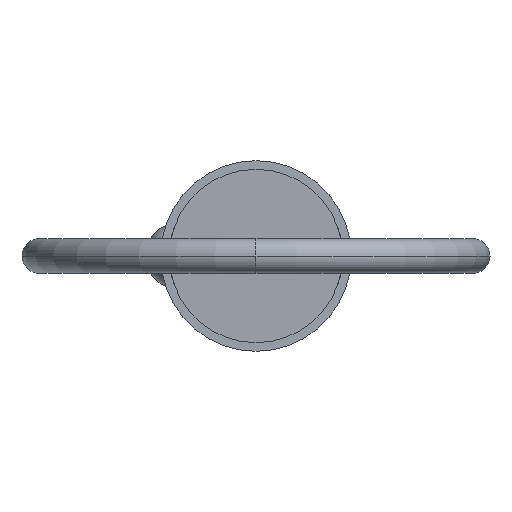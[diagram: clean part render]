
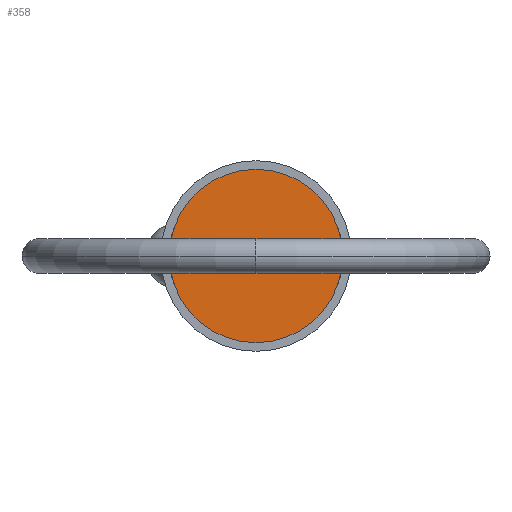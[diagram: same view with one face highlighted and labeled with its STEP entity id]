
A CAD part, left-side view. The second image highlights one B-rep face of the part: STEP entity #358.
In plain terms, the highlighted planar face has unit normal (-1, 0, 0).
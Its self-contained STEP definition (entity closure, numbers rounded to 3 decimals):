
#7 = DIRECTION ( 'NONE',  ( 0., 0., -1. ) ) ;
#166 = AXIS2_PLACEMENT_3D ( 'NONE', #1083, #673, #7 ) ;
#271 = CIRCLE ( 'NONE', #166, 12.7 ) ;
#332 = FACE_OUTER_BOUND ( 'NONE', #810, .T. ) ;
#346 = CARTESIAN_POINT ( 'NONE',  ( 0., 0., 12.7 ) ) ;
#349 = CARTESIAN_POINT ( 'NONE',  ( 0., 0., 0. ) ) ;
#358 = ADVANCED_FACE ( 'NONE', ( #332 ), #423, .T. ) ;
#365 = ORIENTED_EDGE ( 'NONE', *, *, #888, .F. ) ;
#405 = CARTESIAN_POINT ( 'NONE',  ( 0., 0., -12.7 ) ) ;
#423 = PLANE ( 'NONE',  #873 ) ;
#424 = VERTEX_POINT ( 'NONE', #346 ) ;
#491 = CARTESIAN_POINT ( 'NONE',  ( 0., 0., 0. ) ) ;
#580 = DIRECTION ( 'NONE',  ( 0., 0., 1. ) ) ;
#673 = DIRECTION ( 'NONE',  ( 1., 0., 0. ) ) ;
#711 = VERTEX_POINT ( 'NONE', #405 ) ;
#724 = DIRECTION ( 'NONE',  ( 0., 0., -1. ) ) ;
#747 = CIRCLE ( 'NONE', #923, 12.7 ) ;
#810 = EDGE_LOOP ( 'NONE', ( #992, #365 ) ) ;
#816 = EDGE_CURVE ( 'NONE', #711, #424, #747, .T. ) ;
#873 = AXIS2_PLACEMENT_3D ( 'NONE', #349, #1008, #580 ) ;
#888 = EDGE_CURVE ( 'NONE', #424, #711, #271, .T. ) ;
#895 = DIRECTION ( 'NONE',  ( 1., 0., 0. ) ) ;
#923 = AXIS2_PLACEMENT_3D ( 'NONE', #491, #895, #724 ) ;
#992 = ORIENTED_EDGE ( 'NONE', *, *, #816, .F. ) ;
#1008 = DIRECTION ( 'NONE',  ( -1., 0., 0. ) ) ;
#1083 = CARTESIAN_POINT ( 'NONE',  ( 0., 0., 0. ) ) ;
